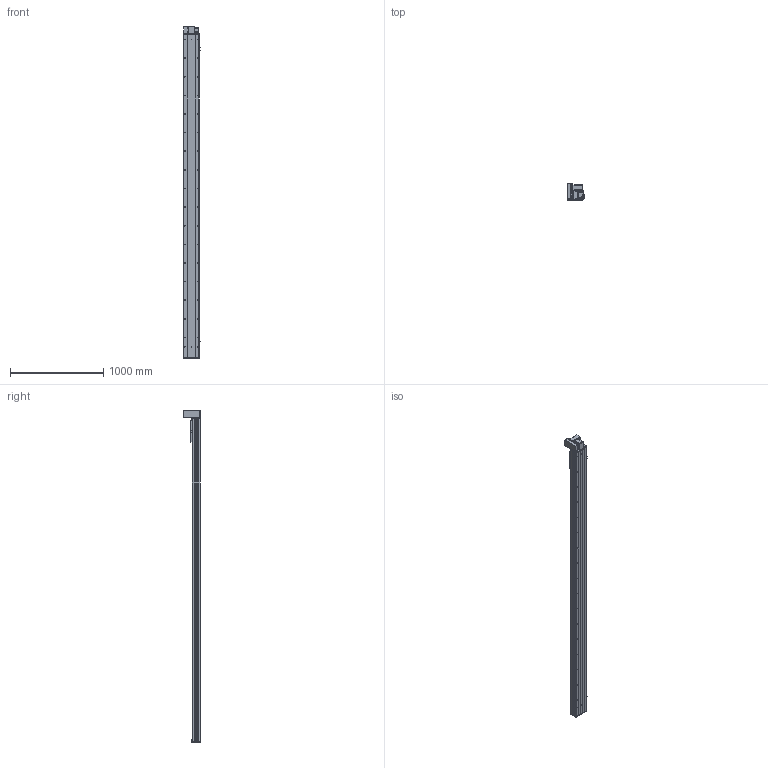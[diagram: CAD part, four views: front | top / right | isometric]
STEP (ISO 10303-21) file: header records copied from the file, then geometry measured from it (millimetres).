
FILE_DESCRIPTION (( 'STEP AP203' ), '1' );
FILE_NAME ('Y170CB-D105-S3150-UL-P400W.STEP', '2020-02-20T03:24:38', ( '微软用户' ), ( '微软中国' ), 'SwSTEP 2.0', 'SolidWorks 2017', '' );
FILE_SCHEMA (( 'CONFIG_CONTROL_DESIGN' ));
Length unit declared in the file: millimetre
Products named in the file (18): Y170CB-D105-S3150-UL-P400W; 0C--雄赽釱俋欶-170; 0B-萇儂楊擘啣; 70CB-詩湍--; san松下电机400不带刹车----; Y100-135俋离換覜ん--; 70CB-掛极-; Y170CB-陔俋离換覜結え---; --70CB --喘謫眊楊擘啣-; 70B喘謫眊----; 70CB-耜裔啣-; Y1埴倛裔; 70C--詩湍揤踡え-; 17B-耜蚾蟀諉啣----; 70CB--耜裔; 00B-俋欶BM--163; 70C-雄赽釱-奻-; B-源倛裔啣
Assembly tree (21 placements, depth 2):
  Y170CB-D105-S3150-UL-P400W
    B-源倛裔啣
    0B-萇儂楊擘啣
    san松下电机400不带刹车----
    70CB-掛极-
    --70CB --喘謫眊楊擘啣-
    70CB-耜裔啣-  x2
    70C--詩湍揤踡え-  x2
    70CB--耜裔
    70C-雄赽釱-奻-
    0C--雄赽釱俋欶-170
    70CB-詩湍--
    Y100-135俋离換覜ん--  x3
    Y170CB-陔俋离換覜結え---
    70B喘謫眊----
    Y1埴倛裔
    17B-耜蚾蟀諉啣----
    00B-俋欶BM--163
Bounding box: 183.5 x 174 x 3566 mm (x, y, z)
Volume: 15004518.1 mm3; surface area: 5426174.4 mm2
Topology: 21 solids, 21 shells, 1095 faces, 2957 edges, 1962 vertices
Faces by surface type: cylinder 609, plane 462, cone 24
Entity records: 35248 total; most frequent: CARTESIAN_POINT 6516, DIRECTION 5738, ORIENTED_EDGE 5396, EDGE_CURVE 2698, AXIS2_PLACEMENT_3D 2128, VERTEX_POINT 1792, LINE 1482, VECTOR 1482
